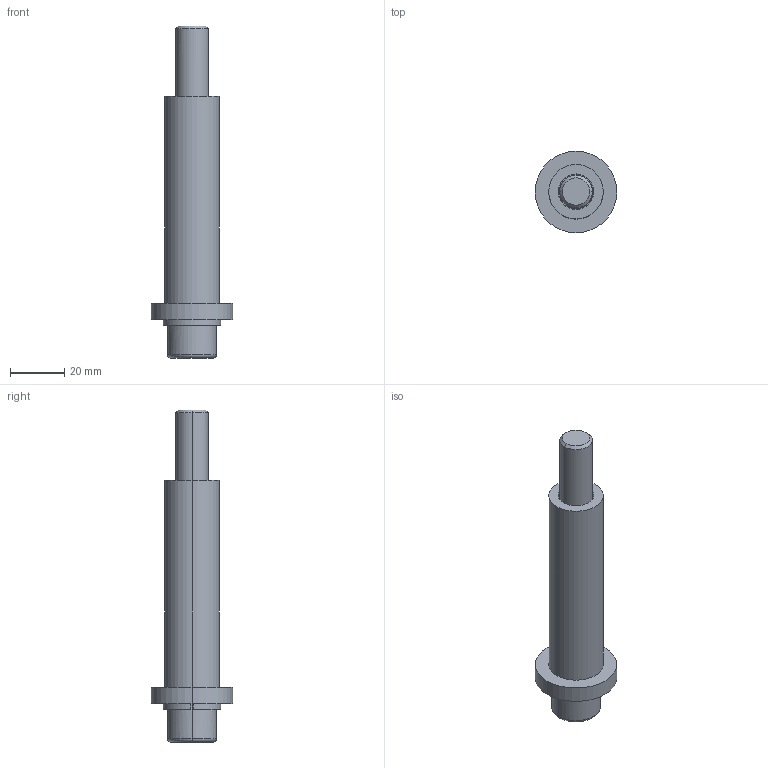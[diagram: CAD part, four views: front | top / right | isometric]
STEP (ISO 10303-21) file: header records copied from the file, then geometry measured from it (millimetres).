
FILE_DESCRIPTION(('CATIA V5 STEP Exchange'),'2;1');
FILE_NAME('C:\Users\Utente\Desktop\IO LAVORO\3D X SITO CF\X SITO\M312-03\M312-03-12.stp','2020-12-04T19:22:31+00:00',('none'),('none'),'CATIA Version 5 Release 20 GA (IN-10)','CATIA V5 STEP AP203','none');
FILE_SCHEMA(('CONFIG_CONTROL_DESIGN'));
Length unit declared in the file: millimetre
Products named in the file (1): M312-03-12
Bounding box: 30 x 30 x 122 mm (x, y, z)
Volume: 32621.1 mm3; surface area: 15436.4 mm2
Topology: 1 solids, 1 shells, 50 faces, 114 edges, 69 vertices
Faces by surface type: plane 22, cylinder 16, torus 8, cone 4
Entity records: 1712 total; most frequent: CARTESIAN_POINT 610, ORIENTED_EDGE 224, DIRECTION 186, EDGE_CURVE 112, AXIS2_PLACEMENT_3D 85, VERTEX_POINT 69, EDGE_LOOP 57, VECTOR 52
